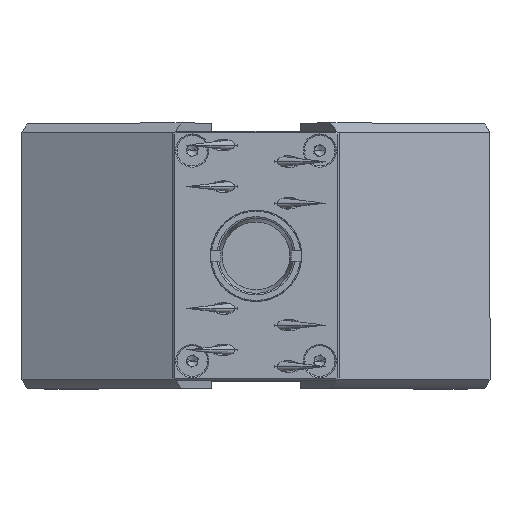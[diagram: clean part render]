
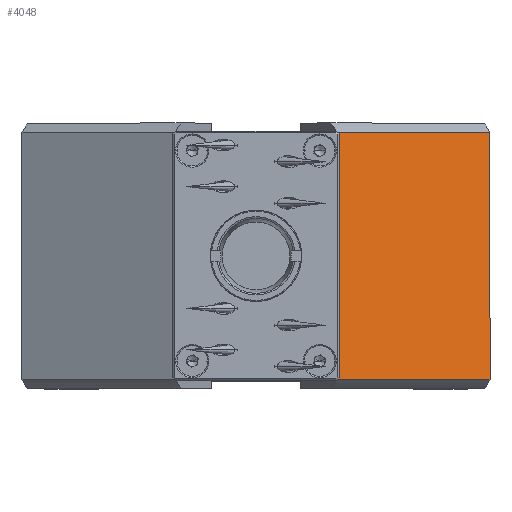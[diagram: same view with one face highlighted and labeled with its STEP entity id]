
A CAD part, top view. The second image highlights one B-rep face of the part: STEP entity #4048.
In plain terms, the highlighted planar face has unit normal (0.5, 0, 0.866).
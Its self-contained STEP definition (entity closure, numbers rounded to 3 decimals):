
#3371 = FACE_OUTER_BOUND ( 'NONE', #17155, .T. ) ;
#3399 = CARTESIAN_POINT ( 'NONE',  ( 42.252, -22.361, -20.899 ) ) ;
#3604 = EDGE_CURVE ( 'NONE', #11667, #16240, #20420, .T. ) ;
#4048 = ADVANCED_FACE ( 'NONE', ( #3371 ), #5275, .T. ) ;
#4802 = DIRECTION ( 'NONE',  ( 0.866, 0., -0.5 ) ) ;
#5024 = CARTESIAN_POINT ( 'NONE',  ( 14.539, 22.361, -4.899 ) ) ;
#5096 = ORIENTED_EDGE ( 'NONE', *, *, #8584, .T. ) ;
#5275 = PLANE ( 'NONE',  #19224 ) ;
#5794 = DIRECTION ( 'NONE',  ( -0.866, 0., 0.5 ) ) ;
#7969 = DIRECTION ( 'NONE',  ( 0.5, 0., 0.866 ) ) ;
#8301 = VECTOR ( 'NONE', #5794, 1000. ) ;
#8584 = EDGE_CURVE ( 'NONE', #27884, #11667, #30492, .T. ) ;
#8585 = VECTOR ( 'NONE', #4802, 1000. ) ;
#10098 = DIRECTION ( 'NONE',  ( 0., 1., 0. ) ) ;
#11221 = CARTESIAN_POINT ( 'NONE',  ( 14.539, 0., -4.899 ) ) ;
#11667 = VERTEX_POINT ( 'NONE', #3399 ) ;
#13395 = LINE ( 'NONE', #11221, #19613 ) ;
#13874 = DIRECTION ( 'NONE',  ( 0., -1., 0. ) ) ;
#14227 = VECTOR ( 'NONE', #10098, 1000. ) ;
#15863 = CARTESIAN_POINT ( 'NONE',  ( 28.395, 0., -12.899 ) ) ;
#16240 = VERTEX_POINT ( 'NONE', #19048 ) ;
#17155 = EDGE_LOOP ( 'NONE', ( #25928, #25520, #5096, #25005 ) ) ;
#19048 = CARTESIAN_POINT ( 'NONE',  ( 42.252, 22.361, -20.899 ) ) ;
#19119 = VERTEX_POINT ( 'NONE', #5024 ) ;
#19224 = AXIS2_PLACEMENT_3D ( 'NONE', #15863, #7969, #26486 ) ;
#19613 = VECTOR ( 'NONE', #13874, 1000. ) ;
#20420 = LINE ( 'NONE', #25938, #14227 ) ;
#20688 = CARTESIAN_POINT ( 'NONE',  ( 28.395, -22.361, -12.899 ) ) ;
#25005 = ORIENTED_EDGE ( 'NONE', *, *, #3604, .T. ) ;
#25303 = EDGE_CURVE ( 'NONE', #19119, #27884, #13395, .T. ) ;
#25520 = ORIENTED_EDGE ( 'NONE', *, *, #25303, .T. ) ;
#25928 = ORIENTED_EDGE ( 'NONE', *, *, #30728, .T. ) ;
#25938 = CARTESIAN_POINT ( 'NONE',  ( 42.252, 0., -20.899 ) ) ;
#26486 = DIRECTION ( 'NONE',  ( 0.866, 0., -0.5 ) ) ;
#26895 = CARTESIAN_POINT ( 'NONE',  ( 28.395, 22.361, -12.899 ) ) ;
#27884 = VERTEX_POINT ( 'NONE', #32252 ) ;
#29401 = LINE ( 'NONE', #26895, #8301 ) ;
#30492 = LINE ( 'NONE', #20688, #8585 ) ;
#30728 = EDGE_CURVE ( 'NONE', #16240, #19119, #29401, .T. ) ;
#32252 = CARTESIAN_POINT ( 'NONE',  ( 14.539, -22.361, -4.899 ) ) ;
